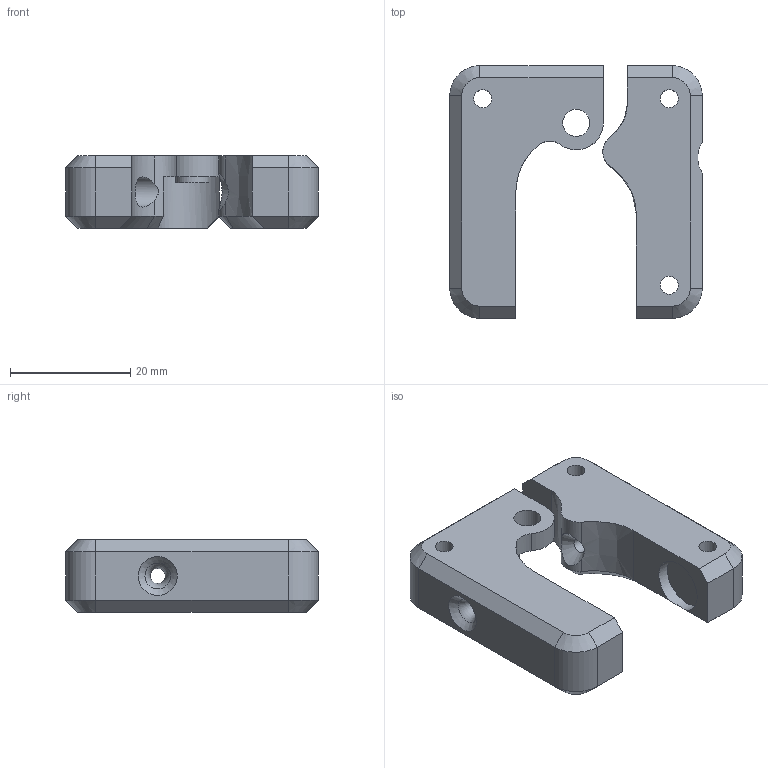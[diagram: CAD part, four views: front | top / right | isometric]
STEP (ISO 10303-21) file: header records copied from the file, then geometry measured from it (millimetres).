
FILE_DESCRIPTION( ( '' ), ' ' );
FILE_NAME( '/vol/tmp/translate-1542633959545187977/589d335c876aac0fbabf0e05.step', '2017-02-10T03:28:29', ( '' ), ( '' ), ' ', ' ', ' ' );
FILE_SCHEMA( ( 'AUTOMOTIVE_DESIGN { 1 0 10303 214 1 1 1 1 }' ) );
Length unit declared in the file: metre
Products named in the file (2): Part 2; Part 1
Bounding box: 42 x 42 x 12 mm (x, y, z)
Volume: 11070.5 mm3; surface area: 5600.6 mm2
Topology: 2 solids, 2 shells, 81 faces, 201 edges, 126 vertices
Faces by surface type: plane 39, cylinder 23, cone 14, extrusion 2, bspline 2, torus 1
Full cylindrical faces by diameter (mm): 2.5 x2, 3 x3, 4.5 x1, 5 x1, 5.5 x1, 5.7 x3, 9 x2, 9.5 x1
Entity records: 3019 total; most frequent: CARTESIAN_POINT 535, DIRECTION 381, ORIENTED_EDGE 342, EDGE_CURVE 171, AXIS2_PLACEMENT_3D 144, VERTEX_POINT 114, EDGE_LOOP 113, FACE_OUTER_BOUND 96
